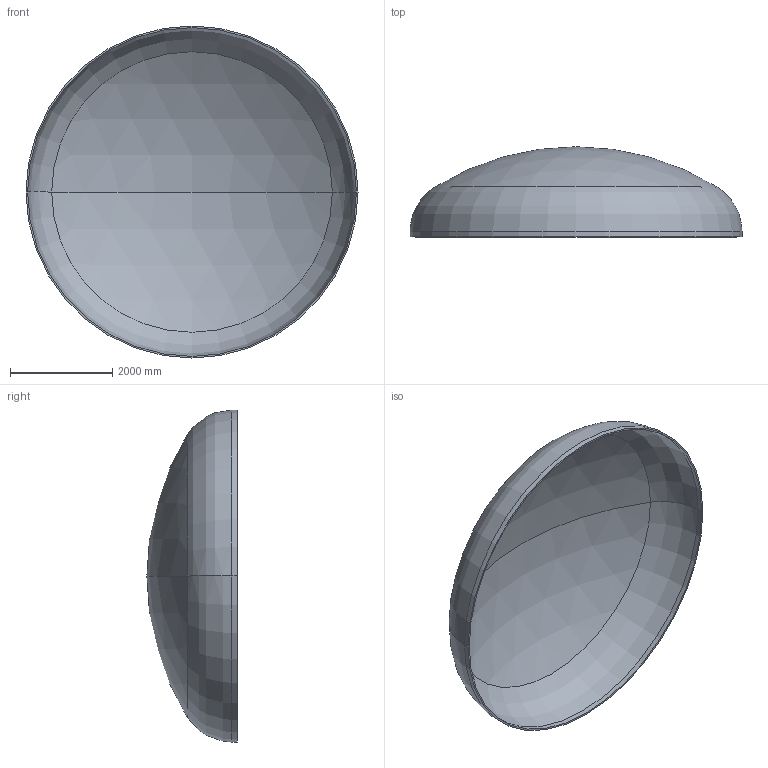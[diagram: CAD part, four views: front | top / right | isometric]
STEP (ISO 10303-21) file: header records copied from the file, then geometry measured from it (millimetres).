
FILE_DESCRIPTION (( 'STEP AP203' ), '1' );
FILE_NAME ('DIN 28013 Korbbogenform_-_Boden DIN 28013 - 6500 x 100 - I - s=31.step', '2016-07-04T10:41:10', ( '' ), ( '' ), 'SwSTEP 2.0', 'SolidWorks 2013', '' );
FILE_SCHEMA (( 'CONFIG_CONTROL_DESIGN' ));
Length unit declared in the file: millimetre
Products named in the file (1): DIN 28013 Korbbogenform_-_Boden DIN 28013 - 6500 x 100 - I - s=31
Bounding box: 6500 x 1765.04 x 6500 mm (x, y, z)
Volume: 1478526459.2 mm3; surface area: 96020790.6 mm2
Topology: 1 solids, 1 shells, 13 faces, 24 edges, 14 vertices
Faces by surface type: torus 4, cylinder 4, sphere 4, plane 1
Entity records: 407 total; most frequent: DIRECTION 72, CARTESIAN_POINT 52, ORIENTED_EDGE 48, AXIS2_PLACEMENT_3D 34, EDGE_CURVE 24, CIRCLE 20, EDGE_LOOP 14, VERTEX_POINT 14
